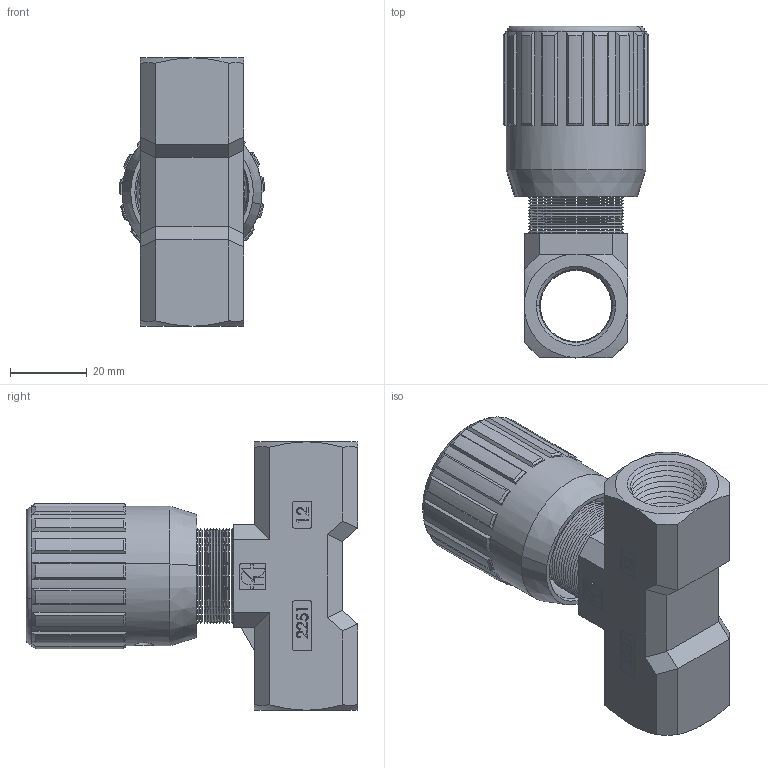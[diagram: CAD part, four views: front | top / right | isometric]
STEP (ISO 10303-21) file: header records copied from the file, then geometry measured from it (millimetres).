
FILE_DESCRIPTION (( 'STEP AP214' ), '1' );
FILE_NAME ('2251-2-12.STEP', '2015-04-15T19:04:30', ( '' ), ( '' ), 'SwSTEP 2.0', 'SolidWorks 2014', '' );
FILE_SCHEMA (( 'AUTOMOTIVE_DESIGN' ));
Length unit declared in the file: millimetre
Products named in the file (1): 2251-2-12
Bounding box: 38 x 86.5 x 70 mm (x, y, z)
Surface area: 22025.1 mm2 (no closed solid volume)
Topology: 0 solids, 27 shells, 544 faces, 1786 edges, 1196 vertices
Faces by surface type: plane 293, cone 134, cylinder 86, bspline 29, torus 2
Entity records: 27603 total; most frequent: CARTESIAN_POINT 6387, DIRECTION 3034, ORIENTED_EDGE 2982, EDGE_CURVE 1786, VECTOR 1200, LINE 1200, VERTEX_POINT 1196, AXIS2_PLACEMENT_3D 917
